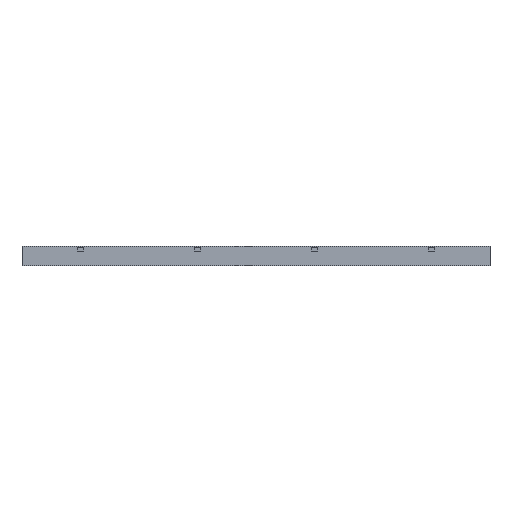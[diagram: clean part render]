
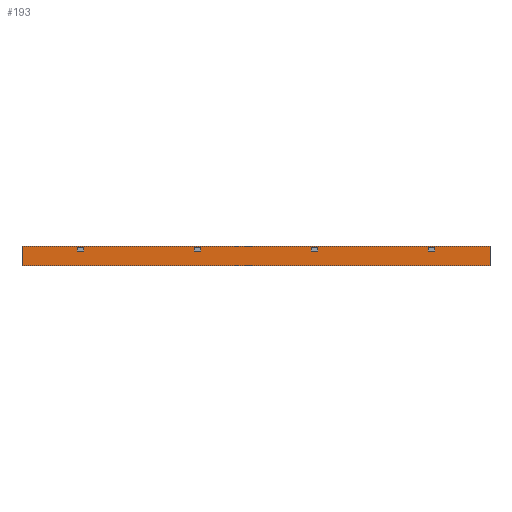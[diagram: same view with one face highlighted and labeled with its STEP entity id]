
A CAD part, left-side view. The second image highlights one B-rep face of the part: STEP entity #193.
In plain terms, the highlighted planar face has unit normal (-1, 0, 0).
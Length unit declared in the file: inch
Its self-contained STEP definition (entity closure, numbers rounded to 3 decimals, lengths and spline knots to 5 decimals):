
#18=FACE_BOUND('',#582,.T.);
#19=FACE_BOUND('',#583,.T.);
#20=FACE_BOUND('',#584,.T.);
#21=FACE_BOUND('',#585,.T.);
#193=ADVANCED_FACE('',(#385,#18,#19,#20,#21),#3297,.T.);
#385=FACE_OUTER_BOUND('',#581,.T.);
#581=EDGE_LOOP('',(#1194,#1195,#1196,#1197));
#582=EDGE_LOOP('',(#1198,#1199,#1200,#1201));
#583=EDGE_LOOP('',(#1202,#1203,#1204,#1205));
#584=EDGE_LOOP('',(#1206,#1207,#1208,#1209));
#585=EDGE_LOOP('',(#1210,#1211,#1212,#1213));
#1194=ORIENTED_EDGE('',*,*,#2106,.T.);
#1195=ORIENTED_EDGE('',*,*,#2107,.T.);
#1196=ORIENTED_EDGE('',*,*,#2108,.T.);
#1197=ORIENTED_EDGE('',*,*,#2109,.T.);
#1198=ORIENTED_EDGE('',*,*,#1848,.F.);
#1199=ORIENTED_EDGE('',*,*,#1870,.F.);
#1200=ORIENTED_EDGE('',*,*,#1827,.F.);
#1201=ORIENTED_EDGE('',*,*,#1802,.F.);
#1202=ORIENTED_EDGE('',*,*,#1956,.F.);
#1203=ORIENTED_EDGE('',*,*,#1978,.F.);
#1204=ORIENTED_EDGE('',*,*,#1935,.F.);
#1205=ORIENTED_EDGE('',*,*,#1910,.F.);
#1206=ORIENTED_EDGE('',*,*,#2064,.F.);
#1207=ORIENTED_EDGE('',*,*,#2086,.F.);
#1208=ORIENTED_EDGE('',*,*,#2043,.F.);
#1209=ORIENTED_EDGE('',*,*,#2018,.F.);
#1210=ORIENTED_EDGE('',*,*,#2113,.T.);
#1211=ORIENTED_EDGE('',*,*,#2110,.T.);
#1212=ORIENTED_EDGE('',*,*,#2111,.T.);
#1213=ORIENTED_EDGE('',*,*,#2112,.T.);
#1802=EDGE_CURVE('',#2858,#2859,#2330,.T.);
#1827=EDGE_CURVE('',#2859,#2876,#2355,.T.);
#1848=EDGE_CURVE('',#2890,#2858,#2376,.T.);
#1870=EDGE_CURVE('',#2876,#2890,#2398,.T.);
#1910=EDGE_CURVE('',#2930,#2931,#2438,.T.);
#1935=EDGE_CURVE('',#2931,#2948,#2463,.T.);
#1956=EDGE_CURVE('',#2962,#2930,#2484,.T.);
#1978=EDGE_CURVE('',#2948,#2962,#2506,.T.);
#2018=EDGE_CURVE('',#3002,#3003,#2546,.T.);
#2043=EDGE_CURVE('',#3003,#3020,#2571,.T.);
#2064=EDGE_CURVE('',#3034,#3002,#2592,.T.);
#2086=EDGE_CURVE('',#3020,#3034,#2614,.T.);
#2106=EDGE_CURVE('',#3054,#3055,#2634,.T.);
#2107=EDGE_CURVE('',#3055,#3056,#2635,.T.);
#2108=EDGE_CURVE('',#3056,#3057,#2636,.T.);
#2109=EDGE_CURVE('',#3057,#3054,#2637,.T.);
#2110=EDGE_CURVE('',#3058,#3059,#2638,.T.);
#2111=EDGE_CURVE('',#3059,#3060,#2639,.T.);
#2112=EDGE_CURVE('',#3060,#3061,#2640,.T.);
#2113=EDGE_CURVE('',#3061,#3058,#2641,.T.);
#2330=B_SPLINE_CURVE_WITH_KNOTS('',1,(#4455,#4456),.UNSPECIFIED.,.F.,.F.,
(2,2),(0.,1.25),.UNSPECIFIED.);
#2355=B_SPLINE_CURVE_WITH_KNOTS('',1,(#4505,#4506),.UNSPECIFIED.,.F.,.F.,
(2,2),(0.,0.75),.UNSPECIFIED.);
#2376=B_SPLINE_CURVE_WITH_KNOTS('',1,(#4547,#4548),.UNSPECIFIED.,.F.,.F.,
(2,2),(0.,0.75),.UNSPECIFIED.);
#2398=B_SPLINE_CURVE_WITH_KNOTS('',1,(#4591,#4592),.UNSPECIFIED.,.F.,.F.,
(2,2),(0.,1.25),.UNSPECIFIED.);
#2438=B_SPLINE_CURVE_WITH_KNOTS('',1,(#4671,#4672),.UNSPECIFIED.,.F.,.F.,
(2,2),(0.,1.25),.UNSPECIFIED.);
#2463=B_SPLINE_CURVE_WITH_KNOTS('',1,(#4721,#4722),.UNSPECIFIED.,.F.,.F.,
(2,2),(0.,0.75),.UNSPECIFIED.);
#2484=B_SPLINE_CURVE_WITH_KNOTS('',1,(#4763,#4764),.UNSPECIFIED.,.F.,.F.,
(2,2),(0.,0.75),.UNSPECIFIED.);
#2506=B_SPLINE_CURVE_WITH_KNOTS('',1,(#4807,#4808),.UNSPECIFIED.,.F.,.F.,
(2,2),(0.,1.25),.UNSPECIFIED.);
#2546=B_SPLINE_CURVE_WITH_KNOTS('',1,(#4887,#4888),.UNSPECIFIED.,.F.,.F.,
(2,2),(0.,1.25),.UNSPECIFIED.);
#2571=B_SPLINE_CURVE_WITH_KNOTS('',1,(#4937,#4938),.UNSPECIFIED.,.F.,.F.,
(2,2),(0.,0.75),.UNSPECIFIED.);
#2592=B_SPLINE_CURVE_WITH_KNOTS('',1,(#4979,#4980),.UNSPECIFIED.,.F.,.F.,
(2,2),(0.,0.75),.UNSPECIFIED.);
#2614=B_SPLINE_CURVE_WITH_KNOTS('',1,(#5023,#5024),.UNSPECIFIED.,.F.,.F.,
(2,2),(0.,1.25),.UNSPECIFIED.);
#2634=B_SPLINE_CURVE_WITH_KNOTS('',1,(#5063,#5064),.UNSPECIFIED.,.F.,.F.,
(2,2),(0.,96.),.UNSPECIFIED.);
#2635=B_SPLINE_CURVE_WITH_KNOTS('',1,(#5065,#5066),.UNSPECIFIED.,.F.,.F.,
(2,2),(0.,4.),.UNSPECIFIED.);
#2636=B_SPLINE_CURVE_WITH_KNOTS('',1,(#5067,#5068),.UNSPECIFIED.,.F.,.F.,
(2,2),(0.,96.),.UNSPECIFIED.);
#2637=B_SPLINE_CURVE_WITH_KNOTS('',1,(#5069,#5070),.UNSPECIFIED.,.F.,.F.,
(2,2),(0.,4.),.UNSPECIFIED.);
#2638=B_SPLINE_CURVE_WITH_KNOTS('',1,(#5071,#5072),.UNSPECIFIED.,.F.,.F.,
(2,2),(0.,1.25),.UNSPECIFIED.);
#2639=B_SPLINE_CURVE_WITH_KNOTS('',1,(#5073,#5074),.UNSPECIFIED.,.F.,.F.,
(2,2),(0.,0.75),.UNSPECIFIED.);
#2640=B_SPLINE_CURVE_WITH_KNOTS('',1,(#5075,#5076),.UNSPECIFIED.,.F.,.F.,
(2,2),(0.,1.25),.UNSPECIFIED.);
#2641=B_SPLINE_CURVE_WITH_KNOTS('',1,(#5077,#5078),.UNSPECIFIED.,.F.,.F.,
(2,2),(0.,0.75),.UNSPECIFIED.);
#2858=VERTEX_POINT('',#4075);
#2859=VERTEX_POINT('',#4076);
#2876=VERTEX_POINT('',#4093);
#2890=VERTEX_POINT('',#4107);
#2930=VERTEX_POINT('',#4147);
#2931=VERTEX_POINT('',#4148);
#2948=VERTEX_POINT('',#4165);
#2962=VERTEX_POINT('',#4179);
#3002=VERTEX_POINT('',#4219);
#3003=VERTEX_POINT('',#4220);
#3020=VERTEX_POINT('',#4237);
#3034=VERTEX_POINT('',#4251);
#3054=VERTEX_POINT('',#4271);
#3055=VERTEX_POINT('',#4272);
#3056=VERTEX_POINT('',#4273);
#3057=VERTEX_POINT('',#4274);
#3058=VERTEX_POINT('',#4275);
#3059=VERTEX_POINT('',#4276);
#3060=VERTEX_POINT('',#4277);
#3061=VERTEX_POINT('',#4278);
#3297=PLANE('',#3580);
#3580=AXIS2_PLACEMENT_3D('',#3970,#3775,$);
#3775=DIRECTION('',(-1.,0.,0.));
#3970=CARTESIAN_POINT('',(-20.25,57.60472,2.40472));
#4075=CARTESIAN_POINT('',(-20.25,35.375,1.75));
#4076=CARTESIAN_POINT('',(-20.25,36.625,1.75));
#4093=CARTESIAN_POINT('',(-20.25,36.625,1.));
#4107=CARTESIAN_POINT('',(-20.25,35.375,1.));
#4147=CARTESIAN_POINT('',(-20.25,11.375,1.75));
#4148=CARTESIAN_POINT('',(-20.25,12.625,1.75));
#4165=CARTESIAN_POINT('',(-20.25,12.625,1.));
#4179=CARTESIAN_POINT('',(-20.25,11.375,1.));
#4219=CARTESIAN_POINT('',(-20.25,-12.625,1.75));
#4220=CARTESIAN_POINT('',(-20.25,-11.375,1.75));
#4237=CARTESIAN_POINT('',(-20.25,-11.375,1.));
#4251=CARTESIAN_POINT('',(-20.25,-12.625,1.));
#4271=CARTESIAN_POINT('',(-20.25,48.,-2.));
#4272=CARTESIAN_POINT('',(-20.25,-48.,-2.));
#4273=CARTESIAN_POINT('',(-20.25,-48.,2.));
#4274=CARTESIAN_POINT('',(-20.25,48.,2.));
#4275=CARTESIAN_POINT('',(-20.25,-35.375,1.75));
#4276=CARTESIAN_POINT('',(-20.25,-36.625,1.75));
#4277=CARTESIAN_POINT('',(-20.25,-36.625,1.));
#4278=CARTESIAN_POINT('',(-20.25,-35.375,1.));
#4455=CARTESIAN_POINT('',(-20.25,35.375,1.75));
#4456=CARTESIAN_POINT('',(-20.25,36.625,1.75));
#4505=CARTESIAN_POINT('',(-20.25,36.625,1.75));
#4506=CARTESIAN_POINT('',(-20.25,36.625,1.));
#4547=CARTESIAN_POINT('',(-20.25,35.375,1.));
#4548=CARTESIAN_POINT('',(-20.25,35.375,1.75));
#4591=CARTESIAN_POINT('',(-20.25,36.625,1.));
#4592=CARTESIAN_POINT('',(-20.25,35.375,1.));
#4671=CARTESIAN_POINT('',(-20.25,11.375,1.75));
#4672=CARTESIAN_POINT('',(-20.25,12.625,1.75));
#4721=CARTESIAN_POINT('',(-20.25,12.625,1.75));
#4722=CARTESIAN_POINT('',(-20.25,12.625,1.));
#4763=CARTESIAN_POINT('',(-20.25,11.375,1.));
#4764=CARTESIAN_POINT('',(-20.25,11.375,1.75));
#4807=CARTESIAN_POINT('',(-20.25,12.625,1.));
#4808=CARTESIAN_POINT('',(-20.25,11.375,1.));
#4887=CARTESIAN_POINT('',(-20.25,-12.625,1.75));
#4888=CARTESIAN_POINT('',(-20.25,-11.375,1.75));
#4937=CARTESIAN_POINT('',(-20.25,-11.375,1.75));
#4938=CARTESIAN_POINT('',(-20.25,-11.375,1.));
#4979=CARTESIAN_POINT('',(-20.25,-12.625,1.));
#4980=CARTESIAN_POINT('',(-20.25,-12.625,1.75));
#5023=CARTESIAN_POINT('',(-20.25,-11.375,1.));
#5024=CARTESIAN_POINT('',(-20.25,-12.625,1.));
#5063=CARTESIAN_POINT('',(-20.25,48.,-2.));
#5064=CARTESIAN_POINT('',(-20.25,-48.,-2.));
#5065=CARTESIAN_POINT('',(-20.25,-48.,-2.));
#5066=CARTESIAN_POINT('',(-20.25,-48.,2.));
#5067=CARTESIAN_POINT('',(-20.25,-48.,2.));
#5068=CARTESIAN_POINT('',(-20.25,48.,2.));
#5069=CARTESIAN_POINT('',(-20.25,48.,2.));
#5070=CARTESIAN_POINT('',(-20.25,48.,-2.));
#5071=CARTESIAN_POINT('',(-20.25,-35.375,1.75));
#5072=CARTESIAN_POINT('',(-20.25,-36.625,1.75));
#5073=CARTESIAN_POINT('',(-20.25,-36.625,1.75));
#5074=CARTESIAN_POINT('',(-20.25,-36.625,1.));
#5075=CARTESIAN_POINT('',(-20.25,-36.625,1.));
#5076=CARTESIAN_POINT('',(-20.25,-35.375,1.));
#5077=CARTESIAN_POINT('',(-20.25,-35.375,1.));
#5078=CARTESIAN_POINT('',(-20.25,-35.375,1.75));
